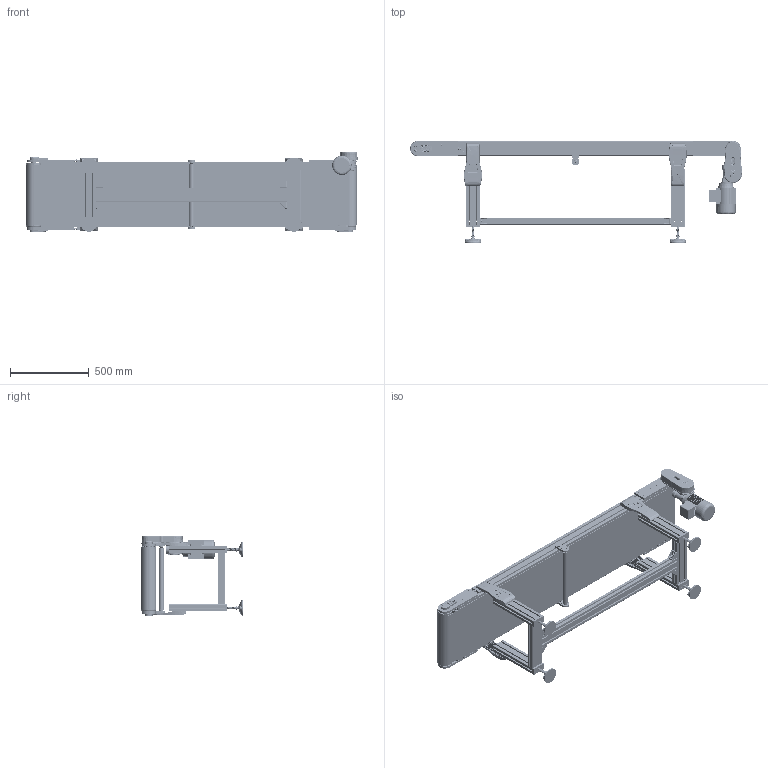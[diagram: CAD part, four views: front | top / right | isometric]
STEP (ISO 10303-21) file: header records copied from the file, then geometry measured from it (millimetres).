
FILE_DESCRIPTION (( 'STEP AP203' ), '1' );
FILE_NAME ('NASTRO_RETTILINEO_TAPPETO.step', '2026-04-23T09:18:04', ( 'Utente Windows' ), ( '' ), 'SwSTEP 2.0', 'SolidWorks 2024', '' );
FILE_SCHEMA (( 'CONFIG_CONTROL_DESIGN' ));
Length unit declared in the file: millimetre
Products named in the file (69): BLOCCO_TRAINO_95_RINVIATO_CINGHIA_44_DX; BLOCCO_REGGITAPPETO; RONDELLE FASCIA LARGA UNI 6593_5.4x20 UNI 6593; 084.813.004; VITI TCEI UNI 5931_M4x25 UNI 5931; 084.802.028; 084.802.034_084.802.034; 084.821.002; 084.305.003-1; 084.302.000 DADI ALUSIC 13x13-1_084.302.009; 084.802.017_084.802.017; 084.810.003; VITI TE UNI 5739_M6x12 UNI 5739; TAPPETO_STANDARD; VITI TE UNI 5739_M5x10 UNI 5739; CHIAVETTE_A 8x7x20 UNI 6604-69; PIEDE_95; CHIAVETTE_A 6x6x50 UNI 6604-69; 084.808.002_084.808.002; 2010.000.072; 084.402.005; 2010.000.073; 084.201.019; 084.802.013-2; TELAIO_95_STANDARD_Default<A macchina>; 084.303.001; RONDELLE UNI 6592_8.4x17 UNI 6592; 084.302.060; 2010.000.074; CH04P_DX; VITI TE UNI 5739_M8x20 UNI 5739; 084.802.068; VITE_DADO_M5X12; 084.405.001; VITI TSEI UNI 5933_M5x12 UNI 5933; 084.832.001; 084.802.014; 084.802.019_084.802.019; RULLO_95_Default<A macchina>; 084.803.003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
Assembly tree (202 placements, depth 4):
  NASTRO_RETTILINEO_TAPPETO
    TAPPETO_STANDARD
    TELAIO_95_STANDARD_Default<A macchina>
    LAMIERA_STANDARD
    RULLO_95_Default<A macchina>  x2
    BLOCCO_PERNO_95_RINVIATO
      084.810.003
      084.813.002
      CHIAVETTE_A 8x7x25 UNI 6604-69
      CHIAVETTE_A 8x7x20 UNI 6604-69
      30UNI7435
    BLOCCO_TRAINO_95_RINVIATO_CINGHIA_44_DX
      084.808.003_084.808.003
      084.802.034_084.802.034
      084.821.002  x2
      084.809.001
      084.813.004
      084.821.003
      084.302.000 DADI ALUSIC 13x13_084.302.004  x6
      084.301.000 VITI ALUSIC_084.301.003  x6
      CHIAVETTE_A 6x6x50 UNI 6604-69
      CHIAVETTE_A 8x7x25 UNI 6604-69  x2
      RONDELLE FASCIA LARGA UNI 6593_5.4x20 UNI 6593
      VITI TE UNI 5739_M5x10 UNI 5739
      VITI TE UNI 5739_M8x20 UNI 5739  x4
      VITI TE UNI 5739_M6x12 UNI 5739  x4
      084.802.067_Default<A macchina>
      VITI TCEI UNI 5931_M4x25 UNI 5931  x2
      084.832.001
    BLOCCO_PERNO_95_RINVIO  x3
      084.812.003
      084.810.003
      30UNI7435
    BLOCCO_TRAINO_95_STANDARD_CON TENDINASTRO E CARTER
      084.808.002_084.808.002
      084.302.060  x2
      084.802.019_084.802.019
      084.301.000 VITI ALUSIC_084.301.003  x6
      VITI TCEI UNI 5931_M4x25 UNI 5931  x2
      084.802.071
      084.802.068
      VITI TSEI UNI 5933_M4x12 UNI 5933  x2
    BLOCCO_RINVIO_95_STANDARD_CON TENDINASTRO E CARTER  x2
      084.808.002_084.808.002
      084.803.003
      084.302.060
      084.802.019_084.802.019
      VITI TSEI UNI 5933_M4x12 UNI 5933
      084.302.000 DADI ALUSIC 13x13-1_084.302.004
      084.301.000 VITI ALUSIC_084.301.003
      084.802.071
    GAMBE_D95_Default<A macchina>  x2
    FLANGIA_GAMBA_95_CON GIUNTI
      2010.000.072
        2010.000.072_L_Default<A macchina>
        2010.000.073
        2010.000.074
      084.302.000 DADI ALUSIC 13x13-1_084.302.004  x6
      RONDELLE UNI 6592_8.4x17 UNI 6592  x7
      084.301.000 VITI ALUSIC1_084.301.003  x7
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Bounding box: 2107.25 x 650 x 508.5 mm (x, y, z)
Volume: 22314873.8 mm3; surface area: 15117613.9 mm2
Topology: 347 solids, 358 shells, 16939 faces, 44230 edges, 28329 vertices
Faces by surface type: plane 7505, cylinder 4808, bspline 1810, cone 1495, torus 1190, sphere 131
Entity records: 266156 total; most frequent: CARTESIAN_POINT 97763, ORIENTED_EDGE 34536, DIRECTION 31139, EDGE_CURVE 17268, VERTEX_POINT 11131, AXIS2_PLACEMENT_3D 10767, LINE 9605, VECTOR 9605
